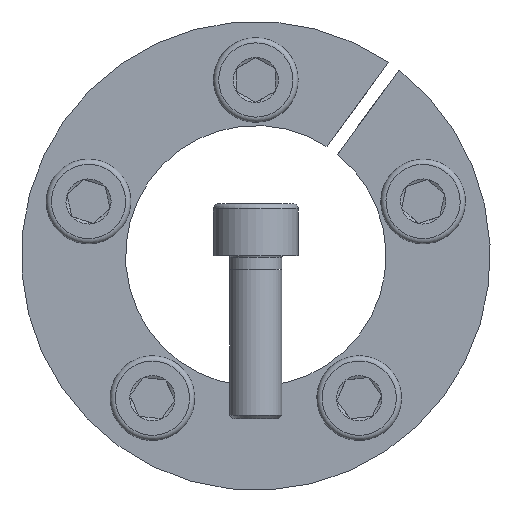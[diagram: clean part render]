
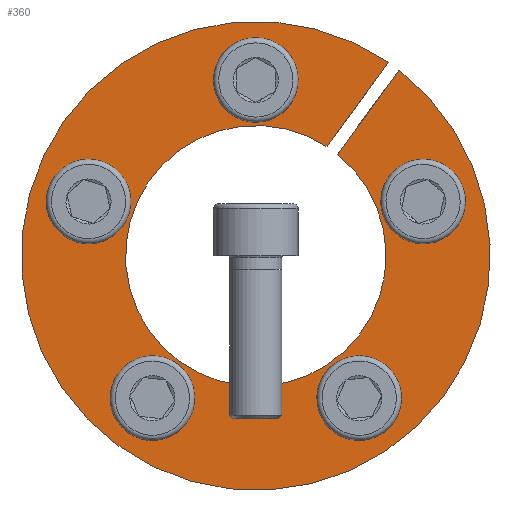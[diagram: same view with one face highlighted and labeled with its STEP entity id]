
A CAD part, front view. The second image highlights one B-rep face of the part: STEP entity #360.
In plain terms, the highlighted planar face has unit normal (0, -1, 0).
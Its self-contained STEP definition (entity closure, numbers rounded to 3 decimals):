
#360 = ADVANCED_FACE( '', ( #555, #556, #557, #558, #559, #560 ), #561, .F. );
#555 = FACE_OUTER_BOUND( '', #684, .T. );
#556 = FACE_BOUND( '', #685, .T. );
#557 = FACE_BOUND( '', #686, .T. );
#558 = FACE_BOUND( '', #687, .T. );
#559 = FACE_BOUND( '', #688, .T. );
#560 = FACE_BOUND( '', #689, .T. );
#561 = PLANE( '', #690 );
#684 = EDGE_LOOP( '', ( #846, #847, #848, #849 ) );
#685 = EDGE_LOOP( '', ( #850 ) );
#686 = EDGE_LOOP( '', ( #851 ) );
#687 = EDGE_LOOP( '', ( #852 ) );
#688 = EDGE_LOOP( '', ( #853 ) );
#689 = EDGE_LOOP( '', ( #854 ) );
#690 = AXIS2_PLACEMENT_3D( '', #855, #856, #857 );
#846 = ORIENTED_EDGE( '', *, *, #1153, .T. );
#847 = ORIENTED_EDGE( '', *, *, #1148, .T. );
#848 = ORIENTED_EDGE( '', *, *, #1154, .T. );
#849 = ORIENTED_EDGE( '', *, *, #1155, .F. );
#850 = ORIENTED_EDGE( '', *, *, #1156, .F. );
#851 = ORIENTED_EDGE( '', *, *, #1157, .F. );
#852 = ORIENTED_EDGE( '', *, *, #1158, .F. );
#853 = ORIENTED_EDGE( '', *, *, #1159, .F. );
#854 = ORIENTED_EDGE( '', *, *, #1160, .F. );
#855 = CARTESIAN_POINT( '', ( 0., 0., 36. ) );
#856 = DIRECTION( '', ( 0., 1., 0. ) );
#857 = DIRECTION( '', ( 1., 0., 0. ) );
#1148 = EDGE_CURVE( '', #1264, #1268, #1270, .T. );
#1153 = EDGE_CURVE( '', #1279, #1264, #1280, .T. );
#1154 = EDGE_CURVE( '', #1268, #1281, #1282, .T. );
#1155 = EDGE_CURVE( '', #1279, #1281, #1283, .T. );
#1156 = EDGE_CURVE( '', #1284, #1284, #1285, .T. );
#1157 = EDGE_CURVE( '', #1286, #1286, #1287, .T. );
#1158 = EDGE_CURVE( '', #1288, #1288, #1289, .T. );
#1159 = EDGE_CURVE( '', #1290, #1290, #1291, .T. );
#1160 = EDGE_CURVE( '', #1292, #1292, #1293, .T. );
#1264 = VERTEX_POINT( '', #1359 );
#1268 = VERTEX_POINT( '', #1364 );
#1270 = CIRCLE( '', #1367, 36. );
#1279 = VERTEX_POINT( '', #1378 );
#1280 = LINE( '', #1379, #1380 );
#1281 = VERTEX_POINT( '', #1381 );
#1282 = LINE( '', #1382, #1383 );
#1283 = CIRCLE( '', #1384, 20. );
#1284 = VERTEX_POINT( '', #1385 );
#1285 = CIRCLE( '', #1386, 4.5 );
#1286 = VERTEX_POINT( '', #1387 );
#1287 = CIRCLE( '', #1388, 4.5 );
#1288 = VERTEX_POINT( '', #1389 );
#1289 = CIRCLE( '', #1390, 4.5 );
#1290 = VERTEX_POINT( '', #1391 );
#1291 = CIRCLE( '', #1392, 4.5 );
#1292 = VERTEX_POINT( '', #1393 );
#1293 = CIRCLE( '', #1394, 4.5 );
#1359 = CARTESIAN_POINT( '', ( 20.343, 0., 29.701 ) );
#1364 = CARTESIAN_POINT( '', ( 21.961, 0., 28.526 ) );
#1367 = AXIS2_PLACEMENT_3D( '', #1482, #1483, #1484 );
#1378 = CARTESIAN_POINT( '', ( 10.932, 0., 16.748 ) );
#1379 = CARTESIAN_POINT( '', ( 10.932, 0., 16.748 ) );
#1380 = VECTOR( '', #1493, 1000. );
#1381 = CARTESIAN_POINT( '', ( 12.55, 0., 15.572 ) );
#1382 = CARTESIAN_POINT( '', ( 21.969, 0., 28.537 ) );
#1383 = VECTOR( '', #1494, 1000. );
#1384 = AXIS2_PLACEMENT_3D( '', #1495, #1496, #1497 );
#1385 = CARTESIAN_POINT( '', ( 4.5, 0., 27. ) );
#1386 = AXIS2_PLACEMENT_3D( '', #1498, #1499, #1500 );
#1387 = CARTESIAN_POINT( '', ( 27.069, 0., 4.064 ) );
#1388 = AXIS2_PLACEMENT_3D( '', #1501, #1502, #1503 );
#1389 = CARTESIAN_POINT( '', ( 12.23, 0., -24.488 ) );
#1390 = AXIS2_PLACEMENT_3D( '', #1504, #1505, #1506 );
#1391 = CARTESIAN_POINT( '', ( -19.511, 0., -19.198 ) );
#1392 = AXIS2_PLACEMENT_3D( '', #1507, #1508, #1509 );
#1393 = CARTESIAN_POINT( '', ( -24.288, 0., 12.623 ) );
#1394 = AXIS2_PLACEMENT_3D( '', #1510, #1511, #1512 );
#1482 = CARTESIAN_POINT( '', ( 0., 0., 0. ) );
#1483 = DIRECTION( '', ( 0., -1., 0. ) );
#1484 = DIRECTION( '', ( 0., 0., -1. ) );
#1493 = DIRECTION( '', ( 0.588, 0., 0.809 ) );
#1494 = DIRECTION( '', ( -0.588, 0., -0.809 ) );
#1495 = CARTESIAN_POINT( '', ( 0., 0., 0. ) );
#1496 = DIRECTION( '', ( 0., -1., 0. ) );
#1497 = DIRECTION( '', ( 0., 0., -1. ) );
#1498 = CARTESIAN_POINT( '', ( 0., 0., 27. ) );
#1499 = DIRECTION( '', ( 0., -1., 0. ) );
#1500 = DIRECTION( '', ( 1., 0., 0. ) );
#1501 = CARTESIAN_POINT( '', ( 25.679, 0., 8.343 ) );
#1502 = DIRECTION( '', ( 0., -1., 0. ) );
#1503 = DIRECTION( '', ( 0.309, 0., -0.951 ) );
#1504 = CARTESIAN_POINT( '', ( 15.87, 0., -21.843 ) );
#1505 = DIRECTION( '', ( 0., -1., 0. ) );
#1506 = DIRECTION( '', ( -0.809, 0., -0.588 ) );
#1507 = CARTESIAN_POINT( '', ( -15.87, 0., -21.843 ) );
#1508 = DIRECTION( '', ( 0., -1., 0. ) );
#1509 = DIRECTION( '', ( -0.809, 0., 0.588 ) );
#1510 = CARTESIAN_POINT( '', ( -25.679, 0., 8.343 ) );
#1511 = DIRECTION( '', ( 0., -1., 0. ) );
#1512 = DIRECTION( '', ( 0.309, 0., 0.951 ) );
